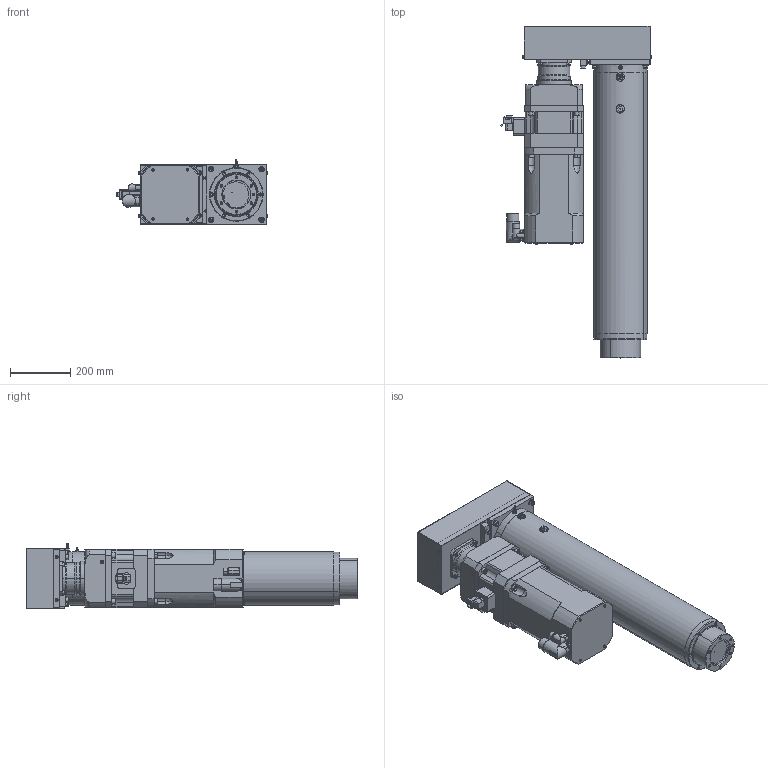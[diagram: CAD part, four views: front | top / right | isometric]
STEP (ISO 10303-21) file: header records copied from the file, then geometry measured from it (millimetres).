
FILE_DESCRIPTION (( 'STEP AP203' ), '1' );
FILE_NAME ('LN5P0600-055-025SG.STEP', '2019-01-31T12:34:28', ( '' ), ( '' ), 'SwSTEP 2.0', 'SolidWorks 2016', '' );
FILE_SCHEMA (( 'CONFIG_CONTROL_DESIGN' ));
Length unit declared in the file: millimetre
Products named in the file (1): LN5P0600-055-025SG
Bounding box: 502.14 x 1103.5 x 216.14 mm (x, y, z)
Volume: 36862897.4 mm3; surface area: 3203266.5 mm2
Topology: 50 solids, 50 shells, 1775 faces, 4146 edges, 2489 vertices
Faces by surface type: plane 722, cylinder 628, cone 295, torus 98, bspline 30, sphere 2
Entity records: 51690 total; most frequent: CARTESIAN_POINT 10766, DIRECTION 9062, ORIENTED_EDGE 7976, EDGE_CURVE 3988, AXIS2_PLACEMENT_3D 3502, VERTEX_POINT 2489, EDGE_LOOP 2087, VECTOR 2058
